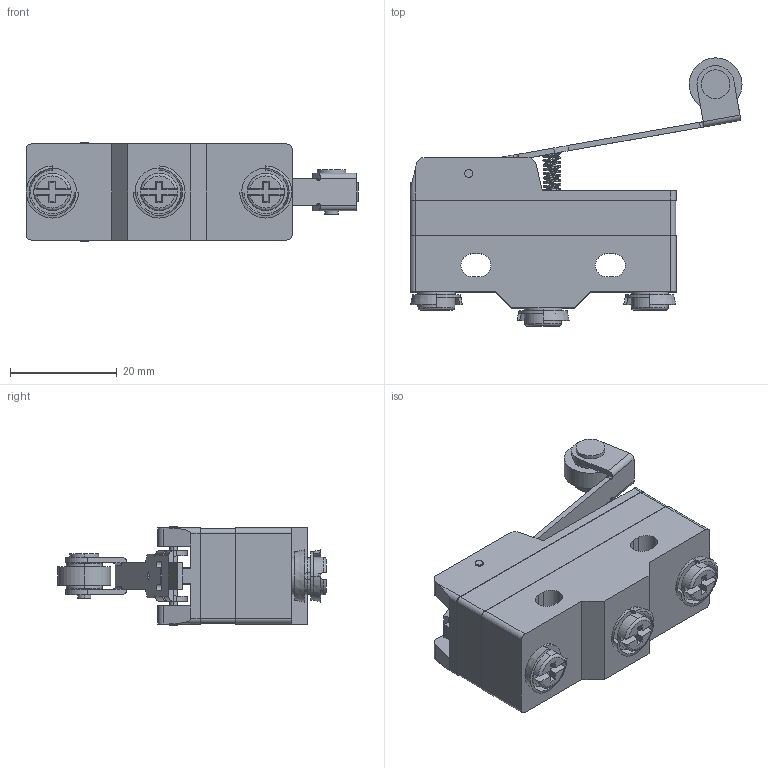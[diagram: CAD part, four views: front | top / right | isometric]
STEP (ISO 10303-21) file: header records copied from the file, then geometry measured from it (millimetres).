
FILE_DESCRIPTION (( 'STEP AP203' ), '1' );
FILE_NAME ('FM1703.STEP', '2018-06-01T16:49:53', ( '' ), ( '' ), 'SwSTEP 2.0', 'SolidWorks 2012', '' );
FILE_SCHEMA (( 'CONFIG_CONTROL_DESIGN' ));
Length unit declared in the file: millimetre
Products named in the file (1): FM1703
Bounding box: 62.25 x 50.29 x 18.5 mm (x, y, z)
Volume: 19020.5 mm3; surface area: 8632.1 mm2
Topology: 6 solids, 6 shells, 279 faces, 730 edges, 480 vertices
Faces by surface type: plane 153, cylinder 98, cone 17, torus 9, bspline 2
Entity records: 11629 total; most frequent: CARTESIAN_POINT 4501, DIRECTION 1498, ORIENTED_EDGE 1460, EDGE_CURVE 730, AXIS2_PLACEMENT_3D 525, VERTEX_POINT 480, LINE 448, VECTOR 448
